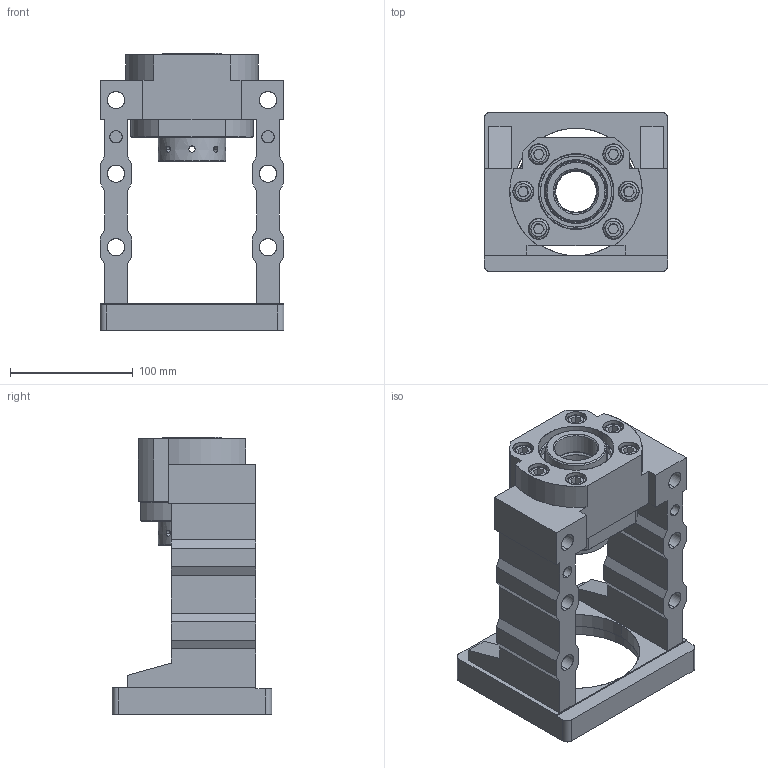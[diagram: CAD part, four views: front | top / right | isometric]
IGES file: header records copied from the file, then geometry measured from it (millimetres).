
Start section: SolidWorks IGES file using analytic representation for surfaces
Bounding box: 150 x 130 x 226 mm (x, y, z)
Surface area: 209659.2 mm2 (no closed solid volume)
Topology: 0 solids, 0 shells, 354 faces, 6278 edges, 6270 vertices
Faces by surface type: revolution 190, bspline 164
